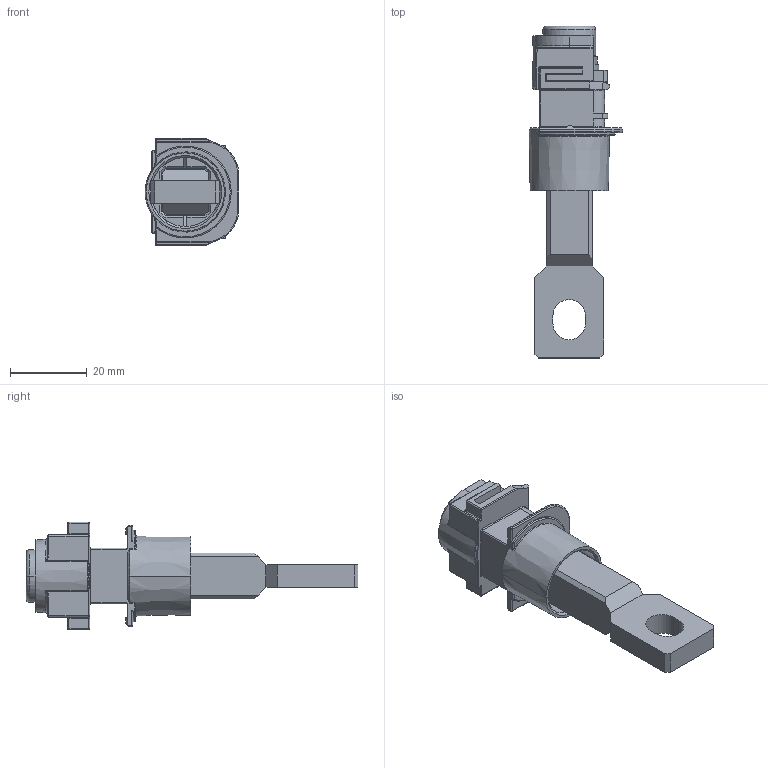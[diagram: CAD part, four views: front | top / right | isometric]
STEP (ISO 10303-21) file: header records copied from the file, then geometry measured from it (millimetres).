
FILE_DESCRIPTION(/* description */ (''),/* implementation_level */ '2;1');
FILE_NAME(/* name */ '21.5 S REAR CONDUCTOR ASSY.stp',/* time_stamp */ '2020-06-17T11:56:26+09:00',/* author */ (''),/* organization */ (''),/* preprocessor_version */ 'ST-DEVELOPER v16',/* originating_system */ 'SIEMENS PLM Software NX 11.0',/* authorisation */ '');
FILE_SCHEMA (('AP203_CONFIGURATION_CONTROLLED_3D_DESIGN_OF_MECHANICAL_PARTS_AND_ASSEMBLIES_MIM_LF { 1 0 10303 403 2 1 2}'));
Length unit declared in the file: millimetre
Products named in the file (1): 21.5 S REAR CONDUCTOR ASSY
Bounding box: 24.49 x 86.6 x 28 mm (x, y, z)
Volume: 15935.9 mm3; surface area: 12551.9 mm2
Topology: 4 solids, 4 shells, 344 faces, 858 edges, 525 vertices
Faces by surface type: plane 161, cylinder 102, torus 23, cone 22, sphere 20, bspline 16
Entity records: 10871 total; most frequent: CARTESIAN_POINT 2624, ORIENTED_EDGE 1708, DIRECTION 1697, EDGE_CURVE 854, AXIS2_PLACEMENT_3D 592, VERTEX_POINT 525, LINE 513, VECTOR 513
